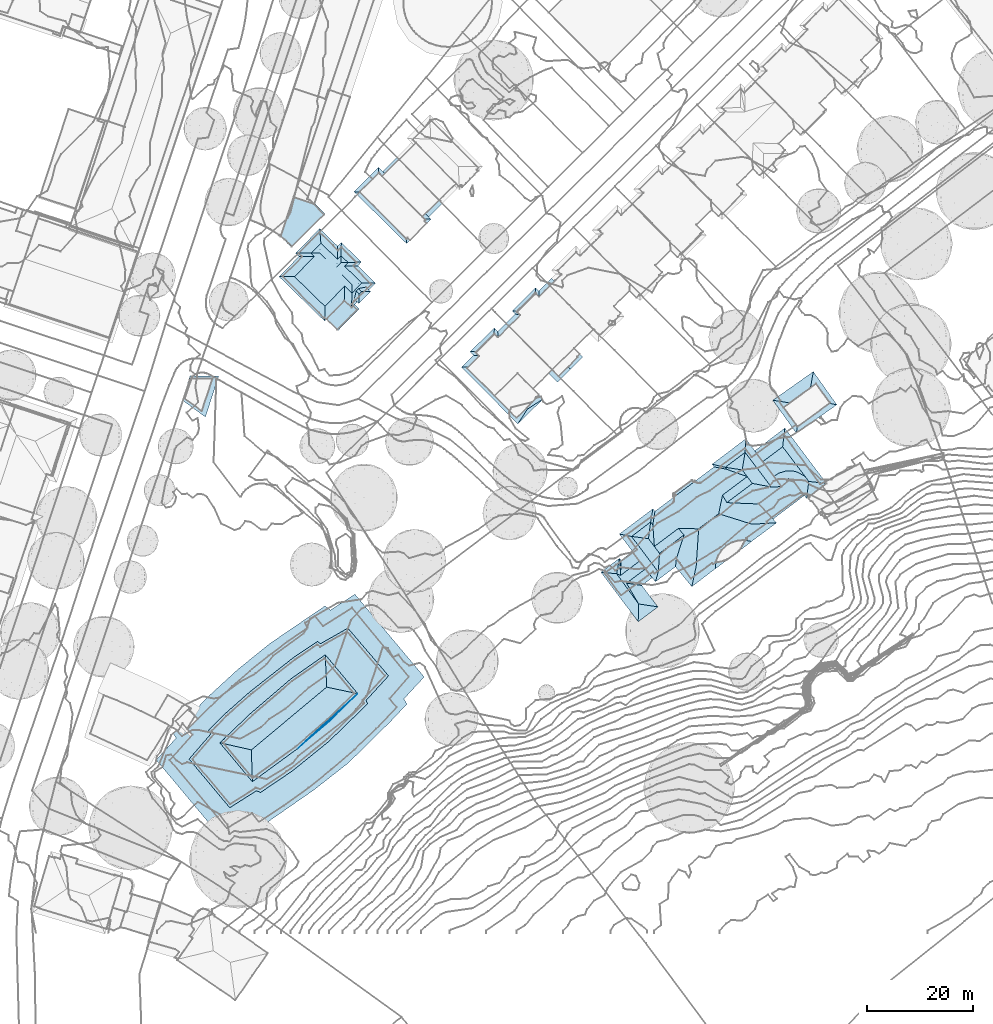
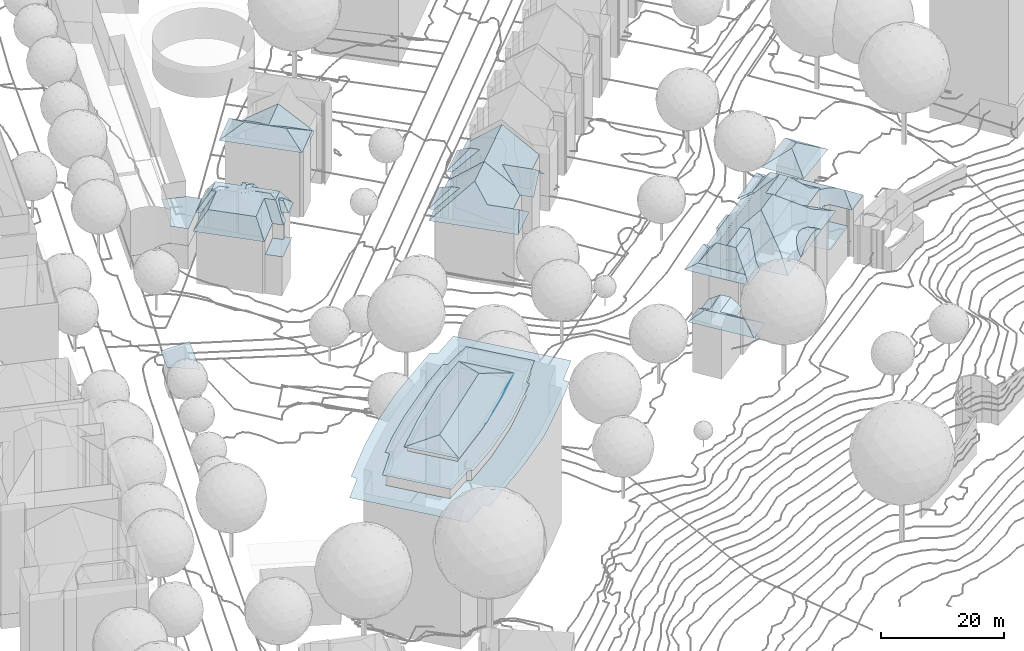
# Not in any storey, part 60 of 494: 17 roofs.
"""IFC2X3 model written with IfcOpenShell, lengths in metres."""

from ifc_helpers import new_model, si_unit, frame, origin_with_axes, place, context, subcontext, project, faceted_brep, element, save


model = new_model("IFC2X3")

# Units and contexts
model_context = context("Model", 3, precision=1e-05, world=origin_with_axes())
body_context = subcontext(model_context, "Body", "Model", "MODEL_VIEW")
ifc_project = project(units=[si_unit("AREAUNIT", "SQUARE_METRE"), si_unit("LENGTHUNIT", "METRE")], contexts=[model_context])

# Roofs
roof_1_placement = place(None, frame((173.5807320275, 98.186316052, 528.0961), z_axis=(0.0, 0.0, 1.0), x_axis=(1.0, 0.0, 0.0)))
element("IfcRoof", 1, at=roof_1_placement, Name="Roof 0", ShapeType="NOTDEFINED", context=body_context, shape_type="Brep", body=[
    faceted_brep([(4.1860000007, 3.057599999, 7.5362), (5.5929999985, 6.7950000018, 6.0314), (-2.0700000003, 1.384800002, 6.1144), (1.1739999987, 0.8575000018, 7.6082), (3.2329999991, 0.5234999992, 8.5571), (2.5309999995, -3.9404000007, 6.4173), (2.3819999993, -4.8856999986, 5.9644), (4.6719999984, 1.5243999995, 8.5501), (10.0460000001, 0.5243999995, 5.9664), (8.693, 0.7763999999, 6.6173), (5.0500000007, 3.688500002, 7.5162)], [[[0, 1, 2]], [[0, 3, 4]], [[3, 0, 2]], [[3, 2, 5]], [[5, 4, 3]], [[6, 5, 2]], [[7, 4, 5]], [[5, 6, 8]], [[5, 9, 7]], [[9, 5, 8]], [[10, 1, 0]], [[4, 7, 10]], [[4, 10, 0]], [[9, 8, 1]], [[9, 10, 7]], [[10, 9, 1]]]),
])
roof_2_placement = place(None, frame((160.7467320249, 68.8533160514, 524.6524), z_axis=(0.0, 0.0, 1.0), x_axis=(1.0, 0.0, 0.0)))
element("IfcRoof", 2, at=roof_2_placement, Name="Roof 0", ShapeType="NOTDEFINED", context=body_context, shape_type="Brep", body=[
    faceted_brep([(-12.5309999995, -2.2675999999, 10.464), (-13.3329999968, -1.2011999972, 11.4629), (-14.0279999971, -4.3574000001, 9.889), (-15.1559999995, -4.1854999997, 10.4999), (-12.0689999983, -2.8817999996, 9.889), (-16.935999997, -3.9140000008, 11.4629), (-16.2929999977, -5.0155999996, 11.5049), (-14.6339999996, -7.8594000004, 11.6148), (-18.7989999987, -2.1317999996, 11.4099), (-16.5599999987, -5.2108999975, 11.5198), (-18.0460000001, -2.4393999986, 11.4629), (-14.7229999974, -11.2225999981, 9.889), (-10.9789999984, -8.4043000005, 9.889), (-20.1969999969, -3.182599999, 10.271), (-21.7779999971, -1.8524999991, 9.889), (-17.2149999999, -5.6893999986, 10.9909), (-20.925999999, -1.932599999, 10.324), (-18.2529999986, 0.8027999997, 9.889), (-17.9759999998, 0.4365000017, 9.889), (-14.443, 0.2725000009, 11.4629), (-15.799999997, 2.0752000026, 9.889)], [[[0, 1, 2]], [[2, 1, 3]], [[4, 0, 2]], [[3, 1, 5]], [[6, 7, 3]], [[3, 5, 6]], [[2, 3, 7]], [[5, 8, 6]], [[6, 9, 7]], [[9, 6, 8]], [[8, 5, 10]], [[11, 12, 7]], [[13, 14, 11]], [[15, 11, 7]], [[11, 15, 13]], [[12, 2, 7]], [[14, 13, 16]], [[16, 13, 9]], [[15, 7, 9]], [[8, 16, 9]], [[9, 13, 15]], [[17, 16, 8]], [[16, 17, 14]], [[8, 10, 17]], [[17, 10, 18]], [[18, 10, 19]], [[19, 20, 18]], [[1, 19, 5]], [[10, 5, 19]]]),
])
roof_3_placement = place(None, frame((160.7467320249, 68.8533160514, 524.6524), z_axis=(0.0, 0.0, 1.0), x_axis=(1.0, 0.0, 0.0)))
element("IfcRoof", 3, at=roof_3_placement, Name="Roof 1", ShapeType="NOTDEFINED", context=body_context, shape_type="Brep", body=[
    faceted_brep([(8.1400000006, 11.0918000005, 6.6703), (10.8289999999, 8.2109999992, 6.6703), (12.4710000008, 14.3535000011, 6.6703), (16.7440000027, 12.6807000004, 6.6703), (14.825000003, 15.2588, 6.6703), (13.4810000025, 15.2655999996, 6.6703), (13.8940000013, 15.4824000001, 6.6703)], [[[0, 1, 2]], [[3, 2, 1]], [[4, 2, 3]], [[5, 4, 6]], [[5, 2, 4]]]),
])
roof_4_placement = place(None, frame((160.7467320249, 68.8533160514, 524.6524), z_axis=(0.0, 0.0, 1.0), x_axis=(1.0, 0.0, 0.0)))
element("IfcRoof", 4, at=roof_4_placement, Name="Roof 2", ShapeType="NOTDEFINED", context=body_context, shape_type="Brep", body=[
    faceted_brep([(6.0270000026, 3.4053000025, 15.5055), (6.7520000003, 3.9824000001, 14.7285), (5.6660000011, 4.1621000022, 15.3665), (5.4290000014, 4.2012000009, 15.5055), (5.1850000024, 2.7705000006, 16.0654), (4.1750000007, 4.1114000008, 16.0654), (3.0090000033, 3.7588, 16.4104), (4.2740000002, 2.0780999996, 16.4104), (1.9740000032, 3.1563000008, 16.5274), (3.3210000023, 1.3672000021, 16.5274), (2.3710000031, 0.6524000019, 16.4104), (1.1090000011, 2.3280999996, 16.4104), (0.4470000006, 1.3037, 16.0654), (1.4560000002, -0.0361000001, 16.0654), (0.0150000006, 0.1240000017, 15.5055), (0.6120000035, -0.6719000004, 15.5055), (-0.1429999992, -1.2089999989, 14.7285), (0.0, 0.0, 15.4335), (5.6660000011, 4.1621000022, 15.1775), (5.6700000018, 4.1612000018, 15.1645), (5.4420000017, 4.183600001, 15.3055)], [[[0, 1, 2]], [[2, 3, 0]], [[4, 0, 3]], [[5, 4, 3]], [[5, 6, 7]], [[7, 4, 5]], [[6, 8, 9]], [[9, 7, 6]], [[10, 9, 11]], [[8, 11, 9]], [[10, 12, 13]], [[12, 10, 11]], [[14, 13, 12]], [[14, 15, 13]], [[16, 15, 14]], [[16, 14, 17]], [[18, 19, 20]]]),
])
roof_5_placement = place(None, frame((160.7467320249, 68.8533160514, 524.6524), z_axis=(0.0, 0.0, 1.0), x_axis=(1.0, 0.0, 0.0)))
element("IfcRoof", 5, at=roof_5_placement, Name="Roof 3", ShapeType="NOTDEFINED", context=body_context, shape_type="Brep", body=[
    faceted_brep([(-12.5299999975, -2.2675999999, 14.6825), (-11.4699999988, -3.6747999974, 14.6825), (-10.9210000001, -1.7997999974, 15.4845), (-16.7889999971, 5.0830000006, 15.2045), (-15.6519999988, 1.8780000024, 14.6826), (-18.2899999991, 5.3828000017, 14.6826), (-15.9839999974, 4.9239000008, 15.4845), (-7.6639999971, -0.8085999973, 14.6825), (-7.4729999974, 0.7959000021, 15.4845), (-4.1559999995, -2.6512999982, 15.7464), (-3.7399999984, -0.7011999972, 16.8193), (-4.568, -4.5830000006, 14.6825), (-6.0299999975, 5.2285000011, 18.6292), (-10.6779999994, 1.7285000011, 18.6292), (-10.9069999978, -1.6024999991, 15.6605), (-11.6549999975, 3.0254000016, 18.6292), (-7.1379999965, 6.4277999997, 18.6292), (6.7770000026, 5.3456999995, 15.6014), (6.7520000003, 3.9824000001, 14.7285), (9.5900000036, 7.4004000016, 15.5495), (6.8120000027, 7.2451000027, 16.8193), (11.4860000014, 7.5069000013, 14.6825), (-3.2759999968, 6.371100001, 20.793), (0.5109999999, 9.2237000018, 20.793), (1.2420000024, 12.7382999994, 18.6292), (2.0710000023, 11.3280999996, 18.6292), (6.2540000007, 11.1328000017, 15.4845), (10.4560000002, 14.2979000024, 15.4845), (6.8960000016, 14.9609999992, 18.6292), (5.9170000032, 16.2588, 18.6292), (5.5620000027, 21.6132999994, 15.2455), (1.7520000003, 18.0088, 15.4845), (5.5240000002, 20.8487000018, 15.4845), (0.9550000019, 18.1983000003, 15.2275), (5.6510000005, 23.4101999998, 14.6826), (-0.737999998, 18.6006000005, 14.6826), (7.762000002, 20.6064999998, 14.6826), (12.4710000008, 14.3535000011, 14.6825), (8.1400000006, 11.0918000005, 14.6825), (10.5880000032, 8.4688000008, 14.6825), (2.0270000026, 17.6358000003, 15.4845), (-11.9579999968, 7.1035000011, 15.4845), (-7.5029999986, 12.7217000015, 14.6826), (-11.7219999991, 8.6006000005, 15.0175), (0.9360000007, 17.8476999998, 15.1185), (-7.9919999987, 12.3535000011, 14.6826), (-11.5529999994, 9.6739000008, 14.6826), (-4.2079999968, 15.2050999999, 14.6826), (-3.9909999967, 15.3682000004, 14.6826), (-0.3609999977, 18.1006000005, 14.6826), (-4.4699999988, 15.5557000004, 14.6826), (-7.8029999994, 13.1220999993, 14.6826), (-12.2149999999, 8.5254000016, 15.2055), (-11.9279999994, 10.1739000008, 14.6826), (-12.367999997, 7.6484999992, 15.4845), (-0.1429999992, -1.2089999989, 14.7285), (2.1630000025, 0.5274000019, 14.7285), (4.3800000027, 2.1933999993, 14.7285), (-12.7779999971, 4.5166000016, 18.6292), (4.9600000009, 17.5313000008, 18.6292), (-0.3609999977, 18.1006000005, 14.4826), (-3.2459999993, 15.9297000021, 14.6326)], [[[0, 1, 2]], [[2, 3, 0]], [[3, 4, 0]], [[5, 4, 3]], [[3, 2, 6]], [[2, 1, 7]], [[7, 8, 2]], [[8, 7, 9]], [[8, 9, 10]], [[9, 7, 11]], [[8, 12, 13]], [[14, 2, 8]], [[13, 14, 8]], [[15, 13, 16]], [[12, 16, 13]], [[17, 18, 19]], [[19, 20, 17]], [[21, 19, 18]], [[22, 10, 20]], [[20, 23, 22]], [[24, 23, 25]], [[25, 20, 26]], [[20, 25, 23]], [[27, 28, 26]], [[25, 26, 28]], [[24, 25, 28]], [[28, 29, 24]], [[30, 31, 32]], [[33, 30, 34]], [[33, 31, 30]], [[35, 33, 34]], [[36, 34, 30]], [[36, 30, 32]], [[36, 27, 37]], [[27, 36, 32]], [[38, 19, 39]], [[20, 38, 26]], [[39, 19, 21]], [[19, 38, 20]], [[26, 38, 27]], [[37, 27, 38]], [[40, 24, 29]], [[23, 24, 22]], [[24, 40, 41]], [[16, 41, 15]], [[16, 22, 24]], [[16, 24, 41]], [[8, 10, 12]], [[12, 22, 16]], [[22, 12, 10]], [[42, 43, 44]], [[43, 45, 46]], [[45, 43, 42]], [[43, 41, 44]], [[44, 47, 42]], [[48, 47, 44]], [[49, 48, 44]], [[44, 41, 40]], [[50, 51, 42]], [[50, 42, 47]], [[46, 52, 43]], [[52, 46, 53]], [[54, 41, 43]], [[54, 43, 52]], [[52, 3, 54]], [[5, 52, 53]], [[54, 3, 6]], [[3, 52, 5]], [[55, 56, 10]], [[9, 11, 55]], [[9, 55, 10]], [[17, 57, 18]], [[57, 17, 20]], [[20, 56, 57]], [[56, 20, 10]], [[44, 40, 33]], [[33, 40, 31]], [[35, 49, 44]], [[35, 44, 33]], [[6, 15, 58]], [[15, 6, 14]], [[13, 15, 14]], [[14, 6, 2]], [[29, 31, 40]], [[31, 29, 59]], [[32, 31, 59]], [[58, 15, 54]], [[41, 54, 15]], [[54, 6, 58]], [[28, 27, 29]], [[29, 32, 59]], [[32, 29, 27]], [[48, 60, 61]]]),
])
roof_6_placement = place(None, frame((160.7467320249, 68.8533160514, 524.6524), z_axis=(0.0, 0.0, 1.0), x_axis=(1.0, 0.0, 0.0)))
element("IfcRoof", 6, at=roof_6_placement, Name="Roof 4", ShapeType="NOTDEFINED", context=body_context, shape_type="Brep", body=[
    faceted_brep([(20.9470000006, 14.9453000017, 10.016), (20.7070000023, 15.2646999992, 10.016), (19.2700000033, 15.4932000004, 10.8329), (14.4370000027, 22.1143000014, 10.7349), (16.8770000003, 16.2763999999, 11.9998), (13.0490000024, 25.4356000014, 10.016), (20.2520000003, 15.0263999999, 10.4229), (17.5610000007, 15.3408000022, 11.9998), (19.5520000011, 15.1084000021, 10.8339), (12.9020000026, 24.2178000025, 10.6989), (12.6210000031, 21.8984999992, 11.9998), (7.7630000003, 20.6074000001, 10.539), (7.3550000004, 21.1484999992, 10.016), (8.9000000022, 19.0967000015, 11.9998), (10.9910000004, 16.3252000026, 11.9998), (11.8859999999, 16.9004000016, 11.9998), (13.25, 17.3203000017, 11.9998), (15.3620000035, 17.1308999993, 11.9998), (14.501000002, 17.3271999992, 11.9998), (14.825000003, 15.2588, 10.016), (17.1750000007, 12.1035000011, 10.016), (17.6490000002, 12.4600000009, 10.016), (17.2780000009, 12.9706999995, 10.5469), (13.4810000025, 15.2655999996, 10.016), (13.8940000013, 15.4824000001, 10.016), (12.4710000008, 14.3535000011, 10.016), (16.5920000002, 12.8867000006, 10.016)], [[[0, 1, 2]], [[3, 2, 1]], [[4, 2, 3]], [[3, 1, 5]], [[6, 0, 2]], [[2, 4, 7]], [[7, 8, 2]], [[2, 8, 6]], [[5, 9, 3]], [[10, 4, 3]], [[10, 3, 9]], [[9, 11, 10]], [[12, 9, 5]], [[12, 11, 9]], [[11, 13, 10]], [[14, 15, 13]], [[16, 10, 13]], [[13, 15, 16]], [[17, 4, 10]], [[16, 18, 10]], [[17, 10, 18]], [[19, 4, 17]], [[20, 21, 22]], [[22, 21, 8]], [[0, 6, 21]], [[7, 22, 8]], [[8, 21, 6]], [[15, 23, 16]], [[16, 23, 24]], [[15, 25, 23]], [[25, 15, 14]], [[20, 22, 26]], [[26, 22, 4]], [[26, 4, 19]], [[4, 22, 7]], [[24, 19, 18]], [[17, 18, 19]], [[16, 24, 18]]]),
])
roof_7_placement = place(None, frame((60.2177320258, 99.807416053, 527.0553), z_axis=(0.0, 0.0, 1.0), x_axis=(1.0, 0.0, 0.0)))
element("IfcRoof", 7, at=roof_7_placement, Name="Roof 0", ShapeType="NOTDEFINED", context=body_context, shape_type="Brep", body=[
    faceted_brep([(0.9519999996, 4.3925999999, 6.4343), (-0.4890000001, -0.2246000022, 6.4343), (3.8890000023, -3.432599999, 6.4343), (6.3980000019, 4.3213, 6.4343)], [[[0, 1, 2]], [[2, 3, 0]]]),
])
roof_8_placement = place(None, frame((54.4957320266, 39.4383160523, 525.2974), z_axis=(0.0, 0.0, 1.0), x_axis=(1.0, 0.0, 0.0)))
element("IfcRoof", 8, at=roof_8_placement, Name="Roof 1", ShapeType="NOTDEFINED", context=body_context, shape_type="Brep", body=[
    faceted_brep([(18.5320000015, 0.5078000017, 28.2982), (22.5870000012, 4.121100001, 28.2982), (18.0799999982, 0.5302999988, 28.2982), (23.8339999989, 5.0507999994, 28.2982), (13.5709999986, -3.9862999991, 28.2982), (13.6799999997, -4.1279000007, 28.2982), (23.9930000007, -7.4433999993, 28.1842), (19.7320000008, -10.558600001, 28.1922), (25.7509999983, -9.6611000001, 27.6263), (25.0489999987, -10.1358000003, 27.6333), (26.063000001, -10.0546999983, 27.5273), (39.4809999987, 2.5478000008, 27.6353), (40.3410000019, 2.6865000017, 27.5273), (39.9930000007, 3.2655999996, 27.5273), (34.8909999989, 1.807599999, 28.2132), (34.9970000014, 1.9111000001, 28.1932), (37.7690000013, 4.6064000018, 28.1612), (39.7270000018, 3.4305999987, 27.6043), (37.6640000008, 4.7324000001, 28.2022), (19.2419999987, -13.8213, 27.5273), (20.0520000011, -14.1094000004, 27.5273), (19.8159999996, -13.4941999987, 27.6643), (18.8170000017, -11.2276000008, 28.1552), (18.9180000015, -11.1532999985, 28.1842), (18.5729999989, -11.4052999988, 28.1502), (18.3590000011, -11.1493999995, 28.2362), (14.2129999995, -17.0078000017, 27.5273), (7.3269999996, -7.9990000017, 27.5783), (17.7419999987, -10.4111000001, 28.2362), (6.5179999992, -7.8115000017, 27.5273), (17.9789999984, 4.2206999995, 27.6433), (17.9609999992, 4.871100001, 27.5273), (14.245000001, 0.9219000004, 27.6433), (13.568, 0.9902000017, 27.5273), (13.568, 0.2831999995, 27.6373), (11.6710000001, -1.6182000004, 27.5273), (10.6209999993, -3.0625, 27.5273), (10.1579999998, -2.4268000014, 27.5273), (7.7609999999, -7.1376999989, 27.6633), (13.0229999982, -4.7558999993, 28.2102), (33.1700000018, -3.5742000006, 27.6353), (34.0769999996, 1.0166000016, 28.2122), (33.0, -4.4375, 27.5273), (32.7760000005, -0.2490000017, 28.1942), (30.6229999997, -2.0967000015, 28.2012), (29.9050000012, -2.7129000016, 28.2032), (26.6779999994, -5.4814999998, 28.1662), (26.5179999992, -9.0430000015, 27.6303), (29.0240000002, -3.4677999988, 28.1972), (26.2850000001, 11.4160000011, 27.5273), (25.7490000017, 10.3583999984, 27.6393), (26.3979999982, 10.8691000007, 27.6343), (26.0760000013, 6.9717000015, 28.2562), (27.0590000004, 7.6601000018, 28.2632), (27.1959999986, 11.4266999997, 27.6483), (29.0769999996, 9.0731999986, 28.2982), (32.0670000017, 11.4774999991, 28.2982), (18.631000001, 4.7626999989, 27.6393), (40.1950000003, 6.1854999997, 27.9812), (35.6939999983, 15.9023000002, 27.6783), (37.0020000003, 15.7089999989, 27.5803), (36.5760000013, 16.9785000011, 27.5273), (31.3720000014, 14.0234000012, 27.5273), (31.5080000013, 13.5254000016, 27.6783), (30.4770000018, 13.5654000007, 27.5273), (30.8520000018, 14.4862999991, 27.5273), (37.4479999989, 4.9912, 28.2852), (32.9670000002, 10.3603000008, 28.2982), (43.1499999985, 7.4697000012, 27.6523), (44.2699999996, 7.9560000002, 27.5273), (32.2089999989, 11.2685000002, 28.2982)], [[[0, 1, 2]], [[3, 1, 0]], [[4, 5, 0]], [[4, 0, 2]], [[6, 7, 8]], [[9, 10, 8]], [[9, 8, 7]], [[11, 12, 13]], [[13, 14, 11]], [[14, 13, 15]], [[16, 15, 17]], [[18, 16, 17]], [[13, 17, 15]], [[19, 20, 21]], [[21, 22, 19]], [[22, 21, 23]], [[21, 7, 23]], [[9, 21, 20]], [[9, 7, 21]], [[10, 9, 20]], [[24, 25, 26]], [[22, 24, 26]], [[26, 19, 22]], [[27, 26, 28]], [[26, 27, 29]], [[26, 25, 28]], [[30, 31, 32]], [[30, 32, 2]], [[32, 31, 33]], [[34, 4, 32]], [[32, 33, 34]], [[2, 32, 4]], [[35, 36, 4]], [[34, 33, 35]], [[35, 4, 34]], [[35, 33, 37]], [[37, 36, 35]], [[29, 27, 38]], [[38, 27, 28]], [[28, 39, 38]], [[5, 4, 39]], [[39, 4, 38]], [[29, 38, 36]], [[4, 36, 38]], [[40, 11, 41]], [[12, 40, 42]], [[11, 14, 41]], [[12, 11, 40]], [[41, 43, 40]], [[44, 45, 42]], [[42, 40, 44]], [[44, 40, 43]], [[46, 6, 47]], [[47, 8, 10]], [[8, 47, 6]], [[46, 47, 48]], [[47, 10, 42]], [[48, 47, 42]], [[48, 42, 45]], [[49, 50, 51]], [[52, 53, 51]], [[51, 50, 3]], [[3, 52, 51]], [[50, 1, 3]], [[51, 53, 54]], [[49, 51, 54]], [[55, 56, 54]], [[55, 54, 53]], [[50, 49, 31]], [[50, 57, 1]], [[57, 50, 31]], [[30, 2, 1]], [[57, 31, 30]], [[1, 57, 30]], [[56, 58, 59]], [[60, 61, 59]], [[60, 59, 58]], [[59, 61, 62]], [[63, 56, 59]], [[62, 63, 59]], [[49, 54, 64]], [[64, 54, 56]], [[62, 64, 63]], [[63, 64, 56]], [[62, 65, 64]], [[49, 64, 65]], [[66, 58, 67]], [[56, 67, 58]], [[18, 17, 58]], [[18, 58, 66]], [[68, 69, 60]], [[60, 58, 68]], [[61, 60, 69]], [[17, 13, 68]], [[68, 58, 17]], [[69, 68, 13]], [[56, 55, 70]], [[70, 67, 56]]]),
])
roof_9_placement = place(None, frame((54.4957320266, 39.4383160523, 525.2974), z_axis=(0.0, 0.0, 1.0), x_axis=(1.0, 0.0, 0.0)))
element("IfcRoof", 9, at=roof_9_placement, Name="Roof 2", ShapeType="NOTDEFINED", context=body_context, shape_type="Brep", body=[
    faceted_brep([(4.0379999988, -3.8398999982, 25.2785), (0.2800000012, -7.9512000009, 25.2785), (7.1739999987, -7.816399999, 25.2785), (10.0799999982, 3.9803999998, 25.2785), (3.4580000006, -2.8564999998, 25.2785), (10.8139999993, -2.4776000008, 25.2785), (11.2589999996, -3.0898999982, 25.2785), (13.9100000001, 0.625, 25.2785), (18.2829999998, 4.4891999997, 25.2785), (14.3150000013, -16.3506000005, 25.2785), (15.6719999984, 9.1171999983, 25.2785), (30.8099999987, 13.8553999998, 25.2785), (32.2219999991, 21.1787, 25.2785), (21.800999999, 14.0760999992, 25.2785), (33.2950000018, 20.4169999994, 25.2785), (36.4640000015, 16.3398000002, 25.2785), (37.9010000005, 23.4101000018, 25.2785), (31.307, 13.4111000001, 25.2785), (43.6039999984, 7.9677999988, 25.2785), (26.5789999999, 11.0117000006, 25.2785), (19.1799999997, -13.2685999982, 25.2785), (19.9820000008, -13.5537, 25.2785), (18.1059999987, -20.6689999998, 25.2785), (30.1380000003, -13.6581999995, 25.2785), (25.7659999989, -9.6513999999, 25.2785), (19.0, -21.3867000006, 25.2785), (32.6700000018, -4.0606000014, 25.2785), (13.4100000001, -23.6611999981, 25.2785), (47.1849999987, 3.5907999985, 25.2785), (39.7080000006, 2.7685000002, 25.2785), (39.3729999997, 3.3271000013, 25.2785), (51.0309999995, 7.746100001, 25.2785), (39.5309999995, -5.7949000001, 25.2785), (44.8559999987, -0.4785000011, 25.2785), (47.7650000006, 2.6053999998, 25.2785), (36.3559999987, -8.7901000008, 25.2785)], [[[0, 1, 2]], [[3, 4, 0]], [[0, 5, 3]], [[2, 6, 5]], [[7, 8, 3]], [[5, 7, 3]], [[2, 5, 0]], [[1, 9, 2]], [[3, 8, 10]], [[11, 12, 13]], [[11, 14, 12]], [[10, 8, 13]], [[15, 14, 11]], [[15, 16, 14]], [[15, 11, 17]], [[16, 15, 18]], [[11, 13, 19]], [[8, 19, 13]], [[20, 9, 21]], [[9, 22, 21]], [[23, 21, 22]], [[23, 24, 21]], [[23, 22, 25]], [[24, 23, 26]], [[22, 9, 27]], [[9, 1, 27]], [[28, 18, 29]], [[30, 29, 18]], [[31, 18, 28]], [[18, 31, 16]], [[29, 26, 32]], [[33, 29, 32]], [[28, 33, 34]], [[28, 29, 33]], [[32, 26, 35]], [[26, 23, 35]]]),
])
roof_10_placement = place(None, frame((54.4957320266, 39.4383160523, 525.2974), z_axis=(0.0, 0.0, 1.0), x_axis=(1.0, 0.0, 0.0)))
element("IfcRoof", 10, at=roof_10_placement, Name="Roof 3", ShapeType="NOTDEFINED", context=body_context, shape_type="Brep", body=[
    faceted_brep([(38.4499999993, 4.5713, 29.1731), (27.0450000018, -5.8291000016, 29.1991), (33.1130000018, -0.6171999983, 29.1991)], [[[0, 1, 2]]]),
])
roof_11_placement = place(None, frame((54.4957320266, 39.4383160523, 525.2974), z_axis=(0.0, 0.0, 1.0), x_axis=(1.0, 0.0, 0.0)))
element("IfcRoof", 11, at=roof_11_placement, Name="Roof 4", ShapeType="NOTDEFINED", context=body_context, shape_type="Brep", body=[
    faceted_brep([(37.6579999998, 4.7391999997, 29.3361), (32.5579999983, 5.8213, 30.382), (33.3900000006, 0.3486000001, 29.1731), (38.4499999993, 4.5713, 29.1731), (24.4739999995, -7.0927999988, 29.1731), (18.313000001, -6.067400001, 30.382), (18.4660000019, -11.2773999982, 29.3351), (18.4899999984, -12.0868999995, 29.1731), (13.1420000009, -4.8975000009, 29.3351), (12.3399999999, -4.7168000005, 29.1731), (27.0450000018, -5.8291000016, 29.1991), (32.3330000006, 11.120099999, 29.3351), (32.2980000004, 11.941399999, 29.1731), (25.7670000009, 7.3652000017, 29.2241), (18.1950000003, 0.8768999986, 29.2241)], [[[0, 1, 2]], [[2, 3, 0]], [[1, 4, 2]], [[5, 6, 4]], [[7, 4, 6]], [[5, 4, 1]], [[8, 9, 7]], [[6, 5, 8]], [[7, 6, 8]], [[4, 7, 10]], [[10, 3, 2]], [[10, 2, 4]], [[9, 8, 11]], [[8, 5, 1]], [[11, 12, 9]], [[11, 8, 1]], [[0, 3, 11]], [[11, 1, 0]], [[12, 11, 3]], [[9, 13, 14]], [[13, 9, 12]]]),
])
roof_12_placement = place(None, frame((78.7667320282, 123.0301160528, 529.3211), z_axis=(0.0, 0.0, 1.0), x_axis=(1.0, 0.0, 0.0)))
element("IfcRoof", 12, at=roof_12_placement, Name="Roof 0", ShapeType="NOTDEFINED", context=body_context, shape_type="Brep", body=[
    faceted_brep([(16.2759999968, -2.5800999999, 12.0338), (16.0089999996, -2.3194000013, 12.0338), (15.4229999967, -2.9004000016, 13.0077), (16.606999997, -2.9013999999, 12.0338), (15.7159999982, -2.0342000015, 12.0338), (14.300999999, -2.3418000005, 13.4586), (14.873999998, -2.8993999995, 13.4586), (14.4489999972, -3.3339999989, 13.4586), (15.1199999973, -3.1992000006, 13.0157), (14.4089999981, -5.1563000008, 12.0338), (13.7709999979, -4.5351999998, 12.0338), (13.8769999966, -2.7763999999, 13.4586), (14.0789999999, -4.8350000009, 12.0338), (13.5189999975, -4.2890999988, 12.0338), (10.1559999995, 1.7001999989, 14.2086), (8.5369999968, 0.566399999, 14.6165), (11.1519999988, 0.3037, 14.2736), (11.6699999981, 1.9140000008, 13.9546), (11.7139999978, -1.8456999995, 13.9546), (10.3359999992, 3.2137999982, 13.9546), (8.1609999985, 3.2197000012, 14.2736), (13.0369999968, -1.5351999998, 14.2736), (14.9409999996, -1.2783000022, 13.9546), (13.0849999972, -3.1816999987, 13.9546), (7.1959999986, 6.2734000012, 13.9546), (6.9419999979, 4.4061999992, 14.2736), (5.3409999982, 4.3691000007, 13.9546), (5.9569999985, 3.7685000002, 13.9546), (7.9609999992, -5.6933999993, 13.9546), (2.2060000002, -0.0800999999, 13.9546), (12.3409999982, 2.6015000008, 13.9546), (11.0089999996, 3.9013999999, 13.9546), (11.0, 2.5654000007, 14.2086), (16.7109999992, -1.625, 11.2738), (17.5409999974, -1.2831999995, 10.6389), (14.4459999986, 0.8535000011, 11.7918), (14.182, 1.990199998, 10.6389), (15.7960000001, -2.1123000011, 11.8338), (16.2759999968, -2.5800999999, 10.6389), (16.0089999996, -2.3194000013, 11.3048), (13.4759999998, -4.3544999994, 12.0068), (13.1729999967, -5.3828000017, 11.1149), (12.993999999, -5.9492000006, 10.6389), (11.6569999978, -4.6464999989, 10.6389), (13.5989999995, -4.3672000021, 11.8338), (13.7709999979, -4.5351999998, 11.4068), (13.5999999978, -5.3262000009, 10.6389), (14.0789999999, -4.8350000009, 10.6389), (13.3609999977, -5.572300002, 10.6389), (7.0219999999, 8.3612999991, 11.4419), (6.9659999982, 9.0282999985, 10.6389), (6.5949999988, 7.9648000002, 11.3959), (2.4169999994, 4.3632999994, 10.6389), (3.0069999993, 4.3641999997, 11.3079), (3.0389999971, 3.7567999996, 10.6389), (3.6059999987, 3.7588, 11.2829), (8.2419999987, -8.1493999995, 10.6389), (-0.7050000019, -0.0839999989, 10.6389), (0.0819999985, -0.0830000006, 11.5358), (6.8609999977, -6.9365000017, 11.2509), (7.9139999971, -8.4862999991, 10.6389), (7.930999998, -7.8350000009, 11.4118), (13.9399999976, 2.6543000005, 11.8498), (13.3699999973, 1.9628999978, 11.7108), (14.8599999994, 2.6854999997, 10.6389), (11.0599999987, 6.3935000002, 10.6389), (9.5, 5.8563999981, 11.5558), (10.3809999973, 5.6963, 10.6389), (10.6209999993, 5.0106999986, 11.9048)], [[[0, 1, 2]], [[3, 0, 2]], [[4, 5, 2]], [[6, 2, 5]], [[4, 2, 1]], [[6, 7, 8]], [[8, 3, 2]], [[8, 2, 6]], [[7, 9, 8]], [[8, 9, 3]], [[10, 7, 11]], [[10, 12, 7]], [[9, 7, 12]], [[11, 13, 10]], [[7, 6, 5]], [[5, 11, 7]], [[14, 15, 16]], [[16, 17, 14]], [[15, 18, 16]], [[19, 20, 14]], [[15, 14, 20]], [[21, 22, 17]], [[17, 16, 21]], [[23, 22, 21]], [[23, 21, 18]], [[16, 18, 21]], [[20, 19, 24]], [[24, 25, 20]], [[24, 26, 25]], [[26, 27, 25]], [[20, 25, 27]], [[15, 28, 18]], [[29, 28, 15]], [[27, 15, 20]], [[29, 15, 27]], [[30, 31, 32]], [[31, 19, 14]], [[14, 32, 31]], [[32, 14, 17]], [[17, 30, 32]], [[5, 22, 23]], [[23, 11, 5]], [[4, 22, 5]], [[33, 34, 22]], [[22, 4, 33]], [[22, 34, 35]], [[36, 35, 34]], [[4, 37, 33]], [[38, 33, 39]], [[33, 38, 34]], [[39, 33, 37]], [[23, 13, 11]], [[13, 23, 40]], [[23, 41, 40]], [[41, 23, 42]], [[23, 18, 43]], [[43, 42, 23]], [[44, 40, 45]], [[40, 44, 13]], [[46, 47, 45]], [[46, 45, 40]], [[41, 42, 48]], [[41, 48, 46]], [[41, 46, 40]], [[49, 50, 51]], [[51, 26, 24]], [[51, 24, 49]], [[51, 50, 52]], [[51, 53, 26]], [[53, 51, 52]], [[52, 54, 53]], [[53, 54, 55]], [[55, 27, 26]], [[55, 26, 53]], [[43, 28, 56]], [[18, 28, 43]], [[54, 57, 58]], [[54, 58, 29]], [[55, 54, 29]], [[27, 55, 29]], [[58, 57, 59]], [[58, 59, 29]], [[59, 57, 60]], [[56, 28, 61]], [[61, 60, 56]], [[29, 61, 28]], [[60, 61, 59]], [[29, 59, 61]], [[62, 30, 63]], [[63, 64, 62]], [[62, 65, 30]], [[65, 62, 64]], [[30, 65, 31]], [[66, 24, 19]], [[19, 67, 66]], [[66, 67, 50]], [[49, 24, 66]], [[50, 49, 66]], [[68, 19, 31]], [[19, 68, 67]], [[68, 31, 65]], [[65, 67, 68]], [[17, 22, 63]], [[36, 63, 35]], [[22, 35, 63]], [[64, 63, 36]], [[17, 63, 30]]]),
])
roof_13_placement = place(None, frame((78.7667320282, 123.0301160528, 529.3211), z_axis=(0.0, 0.0, 1.0), x_axis=(1.0, 0.0, 0.0)))
element("IfcRoof", 13, at=roof_13_placement, Name="Roof 1", ShapeType="NOTDEFINED", context=body_context, shape_type="Brep", body=[
    faceted_brep([(12.993999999, -5.9492000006, 7.7942), (8.2649999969, -8.126000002, 7.7942), (10.4499999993, -10.259800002, 7.7942), (11.6569999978, -4.6464999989, 7.7942), (14.4509999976, -6.1563000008, 7.7942), (13.5999999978, -5.3262000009, 7.7942)], [[[0, 1, 2]], [[0, 3, 1]], [[4, 0, 2]], [[5, 0, 4]]]),
])
roof_14_placement = place(None, frame((93.366732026, 139.0154160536, 529.92), z_axis=(0.0, 0.0, 1.0), x_axis=(1.0, 0.0, 0.0)))
element("IfcRoof", 14, at=roof_14_placement, Name="Roof 0", ShapeType="NOTDEFINED", context=body_context, shape_type="Brep", body=[
    faceted_brep([(0.0580000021, -0.0576000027, 13.9677), (8.6000000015, -5.0898000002, 15.5615), (3.6220000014, -0.1894000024, 15.5615), (8.800999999, -8.8905999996, 13.8606), (-1.118999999, -0.0146000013, 13.4417), (8.8509999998, -9.8271000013, 13.4417), (9.506000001, -9.1621000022, 13.4417), (12.6420000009, -5.9756000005, 13.4417), (13.4450000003, -5.1601000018, 13.4417), (12.2250000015, -5.1416000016, 13.9756), (10.3020000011, -2.0664000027, 13.4417), (6.8920000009, -2.2919999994, 15.0575), (7.0639999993, 1.1191999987, 13.4417), (3.4750000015, 4.6513999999, 13.4417), (3.5109999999, 3.4775999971, 13.9557), (7.0140000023, 6.5645000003, 10.698), (3.8489999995, 3.3486999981, 10.698), (6.8640000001, 1.316399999, 13.2417), (3.8320000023, 3.3310999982, 10.698), (11.307, 2.1943999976, 15.0575), (6.813000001, 0.3213, 13.7137), (15.6000000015, -2.1766999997, 10.6979), (15.0190000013, -1.5849000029, 11.2879), (12.4580000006, -5.3779000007, 10.6979), (10.5020000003, -2.263600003, 13.2417), (9.443, -2.3340000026, 13.7437), (3.8489999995, 3.3486999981, 10.498), (3.8320000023, 3.3310999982, 10.498), (4.6280000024, 4.1396999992, 10.548)], [[[0, 1, 2]], [[3, 0, 4]], [[3, 1, 0]], [[5, 3, 4]], [[5, 6, 3]], [[3, 6, 7]], [[7, 8, 9]], [[1, 3, 9]], [[9, 3, 7]], [[8, 10, 9]], [[11, 1, 9]], [[9, 10, 11]], [[12, 13, 14]], [[12, 2, 11]], [[2, 12, 14]], [[11, 2, 1]], [[14, 13, 4]], [[0, 2, 14]], [[4, 0, 14]], [[15, 16, 17]], [[16, 18, 17]], [[11, 19, 12]], [[17, 12, 19]], [[17, 19, 15]], [[20, 17, 18]], [[21, 22, 23]], [[23, 24, 25]], [[19, 24, 23]], [[23, 22, 19]], [[19, 11, 10]], [[19, 10, 24]], [[26, 27, 28]]]),
])
roof_15_placement = place(None, frame((72.548732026, 133.6649160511, 527.8002), z_axis=(0.0, 0.0, 1.0), x_axis=(1.0, 0.0, 0.0)))
element("IfcRoof", 15, at=roof_15_placement, Name="Roof 0", ShapeType="NOTDEFINED", context=body_context, shape_type="Brep", body=[
    faceted_brep([(5.8420000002, -3.0156999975, 8.4512), (5.8310000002, -3.1142999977, 8.4512), (12.1779999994, 2.9872000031, 8.4512), (8.2789999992, 4.2890000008, 8.4512), (5.6130000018, -2.8974999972, 8.4512), (7.8969999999, -5.1757999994, 8.4512), (14.2120000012, 1.1590999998, 8.4512), (12.2280000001, 3.1357000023, 8.4512)], [[[0, 1, 2]], [[0, 2, 3]], [[0, 4, 1]], [[1, 5, 2]], [[2, 6, 7]], [[5, 6, 2]]]),
])
roof_16_placement = place(None, frame((121.6327320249, 113.5477160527, 529.229), z_axis=(0.0, 0.0, 1.0), x_axis=(1.0, 0.0, 0.0)))
element("IfcRoof", 16, at=roof_16_placement, Name="Roof 0", ShapeType="NOTDEFINED", context=body_context, shape_type="Brep", body=[
    faceted_brep([(7.1270000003, -3.6552999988, 14.2506), (12.2860000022, -4.1367999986, 11.1639), (15.1130000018, 0.3055999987, 12.0788), (3.699000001, -3.7265999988, 16.0844), (7.3670000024, -7.4228999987, 12.0328), (11.4760000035, 3.9510999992, 16.0845), (15.943, -0.5274000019, 11.1639), (6.063000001, 1.8095000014, 14.2506), (-0.6099999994, 0.615199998, 11.1639), (1.1100000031, 2.3134000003, 11.1639), (5.569000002, 6.7157999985, 11.1639), (7.745000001, 7.6904000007, 11.8359), (7.9900000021, 9.1063999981, 11.1639), (11.438000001, 3.9891999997, 16.0415), (8.5760000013, 8.5126999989, 11.8349), (5.8200000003, 5.7802000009, 11.6419), (6.1600000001, 6.1171000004, 11.1639), (5.7440000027, 6.5390000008, 11.1639), (1.7130000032, 1.7021000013, 11.1639), (2.0700000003, 2.0566000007, 11.6539), (1.2850000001, 2.1356999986, 11.1639), (4.9860000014, 7.3055999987, 11.1639), (1.5170000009, 2.9199000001, 11.8609), (4.9130000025, 2.9745999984, 14.2506), (0.5270000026, 2.9043000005, 11.1639), (1.256000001, 2.4580000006, 11.1639), (1.8040000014, 2.4023000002, 11.5049), (1.5050000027, 2.7030999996, 11.1639), (5.0620000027, 6.2137999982, 11.1639), (5.5080000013, 5.7635999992, 11.6739), (5.4260000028, 6.5751999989, 11.1639), (11.1170000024, -7.697300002, 14.2506), (13.376000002, -5.2413000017, 11.1639), (11.5510000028, -8.1358000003, 14.2506), (13.9230000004, -5.7950000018, 11.1639), (7.1870000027, -7.2402999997, 12.0328), (7.2810000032, -8.7159000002, 11.1639), (9.0990000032, -10.5577000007, 11.1639), (7.7480000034, 7.6933000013, 11.7849), (8.8890000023, 6.5428999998, 13.0068), (7.745000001, 7.6904000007, 11.6359), (7.7480000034, 7.6933000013, 11.6859), (8.8490000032, 6.5830000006, 12.8938)], [[[0, 1, 2]], [[0, 3, 4]], [[5, 3, 0]], [[5, 0, 2]], [[2, 1, 6]], [[3, 7, 8]], [[7, 3, 5]], [[8, 7, 9]], [[10, 11, 12]], [[7, 11, 10]], [[11, 7, 13]], [[13, 7, 5]], [[11, 14, 12]], [[15, 16, 17]], [[18, 19, 20]], [[21, 22, 23]], [[22, 21, 24]], [[25, 26, 27]], [[28, 29, 30]], [[23, 7, 21]], [[10, 21, 7]], [[22, 24, 9]], [[7, 23, 22]], [[7, 22, 9]], [[1, 31, 32]], [[31, 1, 0]], [[31, 33, 34]], [[31, 34, 32]], [[4, 35, 36]], [[0, 4, 31]], [[37, 31, 4]], [[33, 31, 37]], [[37, 4, 36]], [[38, 11, 39]], [[40, 41, 42]]]),
])
roof_17_placement = place(None, frame((113.678732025, 105.6463160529, 529.229), z_axis=(0.0, 0.0, 1.0), x_axis=(1.0, 0.0, 0.0)))
element("IfcRoof", 17, at=roof_17_placement, Name="Roof 0", ShapeType="NOTDEFINED", context=body_context, shape_type="Brep", body=[
    faceted_brep([(5.0930000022, 6.4853000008, 11.8709), (5.1060000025, 7.6074000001, 11.1639), (0.5340000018, 3.0947000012, 11.1639), (1.7100000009, 3.120099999, 11.8879), (5.0530000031, 3.1933999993, 13.9447), (1.1850000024, 2.4354999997, 11.1639), (5.9510000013, 2.2831999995, 13.9447), (5.756000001, 6.9481999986, 11.1639), (7.5830000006, -3.9492000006, 13.8107), (12.4560000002, -3.9199000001, 11.1639), (7.5230000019, 0.0975999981, 16.0844), (11.6530000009, 4.1748000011, 16.0844), (16.1090000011, -0.313500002, 11.1639), (1.3530000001, 2.6015999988, 11.1639), (2.0050000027, 2.5800999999, 11.5439), (1.6720000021, 2.9160000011, 11.1639), (1.3600000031, 2.2588, 11.1639), (1.8110000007, 1.8016999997, 11.1639), (2.2440000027, 2.2304999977, 11.6799), (5.9660000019, 5.9266999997, 11.6679), (6.370000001, 6.3271000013, 11.1639), (5.9310000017, 6.7725000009, 11.1639), (5.2250000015, 6.4248000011, 11.1639), (5.6280000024, 6.0194999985, 11.6239), (5.5960000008, 6.7899999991, 11.1639), (-1.0879999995, 0.191399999, 11.1639), (0.1780000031, 0.177699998, 11.8879), (7.3440000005, 8.5165999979, 11.1639), (7.8289999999, -8.4882999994, 11.1639), (8.1300000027, -8.1904000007, 11.1639), (7.819000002, -7.876000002, 11.5079), (11.3640000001, -7.7793000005, 13.8107), (13.5700000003, -5.0478999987, 11.1639), (11.200000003, -7.6123000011, 13.8107), (14.3540000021, -5.8418000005, 11.1639), (4.756000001, -5.7265999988, 11.1639), (7.6530000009, -8.6611000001, 11.1639), (9.5510000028, -10.5839999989, 11.1639), (5.2900000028, -5.3271999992, 11.5009), (5.2250000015, -5.2637000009, 11.1639), (4.9310000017, -5.5537, 11.1639)], [[[0, 1, 2]], [[3, 4, 0]], [[2, 3, 0]], [[3, 2, 5]], [[6, 4, 3]], [[6, 3, 5]], [[4, 6, 7]], [[7, 1, 0]], [[7, 0, 4]], [[8, 9, 10]], [[10, 9, 11]], [[12, 11, 9]], [[13, 14, 15]], [[16, 17, 18]], [[19, 20, 21]], [[22, 23, 24]], [[25, 26, 5]], [[5, 26, 6]], [[6, 10, 11]], [[10, 6, 26]], [[27, 7, 11]], [[7, 6, 11]], [[28, 29, 30]], [[31, 32, 33]], [[32, 31, 34]], [[9, 8, 33]], [[9, 33, 32]], [[25, 35, 26]], [[8, 10, 26]], [[26, 35, 8]], [[36, 37, 33]], [[36, 33, 8]], [[33, 37, 31]], [[36, 8, 35]], [[38, 39, 40]], [[37, 34, 31]]]),
])

save(model, "model.ifc")
